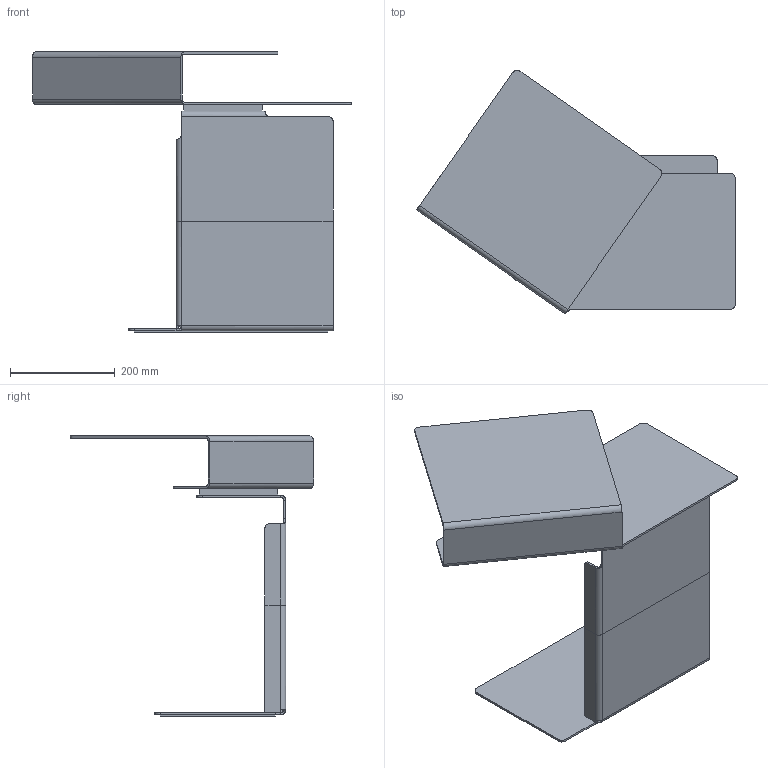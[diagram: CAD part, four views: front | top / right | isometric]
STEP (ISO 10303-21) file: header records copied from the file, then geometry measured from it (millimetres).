
FILE_DESCRIPTION(/* description */ (''),/* implementation_level */ '2;1');
FILE_NAME(/* name */ 'KG_Diana_E_3D_JS_20230718',/* time_stamp */ '2023-07-18T11:32:59+02:00',/* author */ (''),/* organization */ (''),/* preprocessor_version */ 'ST-DEVELOPER v16.5',/* originating_system */ 'Rhino 7.31',/* authorisation */ '');
FILE_SCHEMA (('CONFIG_CONTROL_DESIGN'));
Length unit declared in the file: millimetre
Products named in the file (1): Document
Bounding box: 608.94 x 464.68 x 535 mm (x, y, z)
Volume: 455298.9 mm3; surface area: 1298520.1 mm2
Topology: 2 solids, 51 shells, 86 faces, 370 edges, 324 vertices
Faces by surface type: plane 46, bspline 21, cylinder 19
Entity records: 6321 total; most frequent: CARTESIAN_POINT 4154, ORIENTED_EDGE 451, EDGE_CURVE 370, B_SPLINE_CURVE_WITH_KNOTS 347, VERTEX_POINT 324, EDGE_LOOP 88, ADVANCED_FACE 86, FACE_OUTER_BOUND 86
